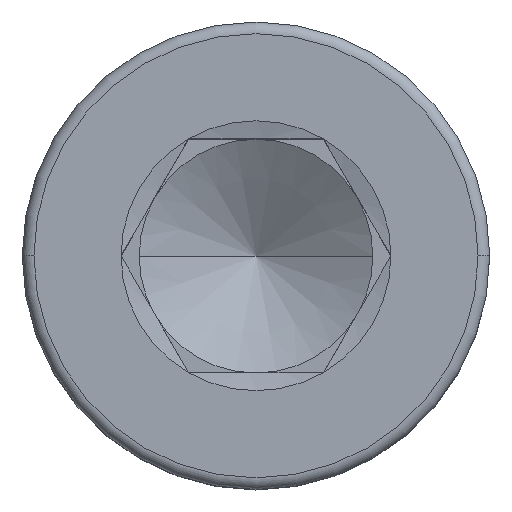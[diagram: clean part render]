
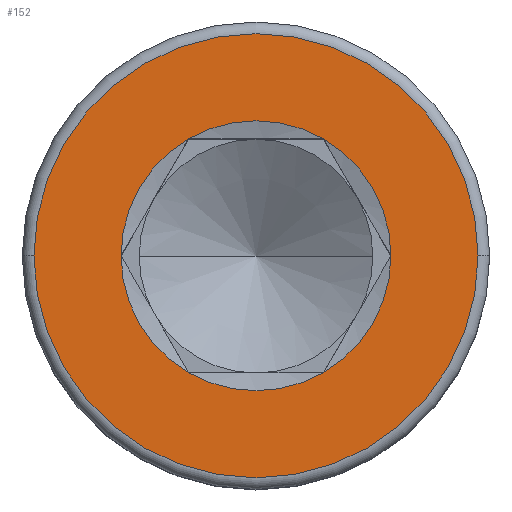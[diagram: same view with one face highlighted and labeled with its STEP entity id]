
A CAD part, top view. The second image highlights one B-rep face of the part: STEP entity #152.
In plain terms, the highlighted planar face has unit normal (0, 0, 1).
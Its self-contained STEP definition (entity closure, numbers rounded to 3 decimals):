
#12 = ORIENTED_EDGE ( 'NONE', *, *, #1401, .F. ) ;
#33 = DIRECTION ( 'NONE',  ( 1., 0., 0. ) ) ;
#37 = DIRECTION ( 'NONE',  ( 0., 0., 1. ) ) ;
#43 = DIRECTION ( 'NONE',  ( 0., 0., 1. ) ) ;
#60 = CARTESIAN_POINT ( 'NONE',  ( 0., 0., 6. ) ) ;
#150 = CARTESIAN_POINT ( 'NONE',  ( -1.443, 2.5, 6. ) ) ;
#152 = ADVANCED_FACE ( 'NONE', ( #1587, #928 ), #413, .T. ) ;
#170 = DIRECTION ( 'NONE',  ( 0., 0., 1. ) ) ;
#179 = EDGE_CURVE ( 'NONE', #652, #604, #1091, .T. ) ;
#249 = CIRCLE ( 'NONE', #428, 2.887 ) ;
#271 = AXIS2_PLACEMENT_3D ( 'NONE', #1624, #1366, #33 ) ;
#284 = CARTESIAN_POINT ( 'NONE',  ( 0., 0., 6. ) ) ;
#312 = CARTESIAN_POINT ( 'NONE',  ( 0., 0., 6. ) ) ;
#315 = DIRECTION ( 'NONE',  ( 0., 0., 1. ) ) ;
#323 = DIRECTION ( 'NONE',  ( 1., 0., 0. ) ) ;
#325 = ORIENTED_EDGE ( 'NONE', *, *, #991, .F. ) ;
#343 = VERTEX_POINT ( 'NONE', #1270 ) ;
#374 = CARTESIAN_POINT ( 'NONE',  ( 0., 0., 6. ) ) ;
#407 = DIRECTION ( 'NONE',  ( 1., 0., 0. ) ) ;
#413 = PLANE ( 'NONE',  #761 ) ;
#428 = AXIS2_PLACEMENT_3D ( 'NONE', #454, #614, #1627 ) ;
#454 = CARTESIAN_POINT ( 'NONE',  ( 0., 0., 6. ) ) ;
#498 = CARTESIAN_POINT ( 'NONE',  ( 4.75, 0., 6. ) ) ;
#500 = EDGE_CURVE ( 'NONE', #1165, #832, #764, .T. ) ;
#512 = AXIS2_PLACEMENT_3D ( 'NONE', #60, #170, #323 ) ;
#535 = VERTEX_POINT ( 'NONE', #150 ) ;
#543 = CIRCLE ( 'NONE', #1173, 4.75 ) ;
#604 = VERTEX_POINT ( 'NONE', #1359 ) ;
#611 = ORIENTED_EDGE ( 'NONE', *, *, #179, .F. ) ;
#614 = DIRECTION ( 'NONE',  ( 0., 0., 1. ) ) ;
#646 = EDGE_CURVE ( 'NONE', #1378, #343, #249, .T. ) ;
#647 = CARTESIAN_POINT ( 'NONE',  ( -4.75, 0., 6. ) ) ;
#652 = VERTEX_POINT ( 'NONE', #975 ) ;
#703 = ORIENTED_EDGE ( 'NONE', *, *, #905, .F. ) ;
#761 = AXIS2_PLACEMENT_3D ( 'NONE', #1451, #43, #1049 ) ;
#764 = CIRCLE ( 'NONE', #948, 4.75 ) ;
#794 = DIRECTION ( 'NONE',  ( 1., 0., 0. ) ) ;
#812 = CARTESIAN_POINT ( 'NONE',  ( 2.887, 0., 6. ) ) ;
#832 = VERTEX_POINT ( 'NONE', #647 ) ;
#858 = ORIENTED_EDGE ( 'NONE', *, *, #882, .F. ) ;
#882 = EDGE_CURVE ( 'NONE', #535, #1477, #1334, .T. ) ;
#901 = CIRCLE ( 'NONE', #1671, 2.887 ) ;
#905 = EDGE_CURVE ( 'NONE', #343, #535, #1556, .T. ) ;
#928 = FACE_BOUND ( 'NONE', #1273, .T. ) ;
#948 = AXIS2_PLACEMENT_3D ( 'NONE', #284, #1087, #407 ) ;
#975 = CARTESIAN_POINT ( 'NONE',  ( -1.443, -2.5, 6. ) ) ;
#991 = EDGE_CURVE ( 'NONE', #604, #1378, #1036, .T. ) ;
#1011 = CARTESIAN_POINT ( 'NONE',  ( 0., 0., 6. ) ) ;
#1036 = CIRCLE ( 'NONE', #271, 2.887 ) ;
#1049 = DIRECTION ( 'NONE',  ( 1., 0., 0. ) ) ;
#1077 = CARTESIAN_POINT ( 'NONE',  ( 0., 0., 6. ) ) ;
#1087 = DIRECTION ( 'NONE',  ( 0., 0., 1. ) ) ;
#1091 = CIRCLE ( 'NONE', #1280, 2.887 ) ;
#1139 = CARTESIAN_POINT ( 'NONE',  ( -2.887, 0., 6. ) ) ;
#1165 = VERTEX_POINT ( 'NONE', #498 ) ;
#1166 = DIRECTION ( 'NONE',  ( 0., 0., 1. ) ) ;
#1173 = AXIS2_PLACEMENT_3D ( 'NONE', #374, #1166, #1685 ) ;
#1251 = ORIENTED_EDGE ( 'NONE', *, *, #646, .F. ) ;
#1270 = CARTESIAN_POINT ( 'NONE',  ( 1.443, 2.5, 6. ) ) ;
#1273 = EDGE_LOOP ( 'NONE', ( #1251, #325, #611, #12, #858, #703 ) ) ;
#1280 = AXIS2_PLACEMENT_3D ( 'NONE', #1077, #1315, #794 ) ;
#1294 = EDGE_CURVE ( 'NONE', #832, #1165, #543, .T. ) ;
#1315 = DIRECTION ( 'NONE',  ( 0., 0., 1. ) ) ;
#1333 = DIRECTION ( 'NONE',  ( 1., 0., 0. ) ) ;
#1334 = CIRCLE ( 'NONE', #1668, 2.887 ) ;
#1359 = CARTESIAN_POINT ( 'NONE',  ( 1.443, -2.5, 6. ) ) ;
#1366 = DIRECTION ( 'NONE',  ( 0., 0., 1. ) ) ;
#1378 = VERTEX_POINT ( 'NONE', #812 ) ;
#1380 = ORIENTED_EDGE ( 'NONE', *, *, #1294, .T. ) ;
#1401 = EDGE_CURVE ( 'NONE', #1477, #652, #901, .T. ) ;
#1402 = ORIENTED_EDGE ( 'NONE', *, *, #500, .T. ) ;
#1451 = CARTESIAN_POINT ( 'NONE',  ( 0., 0., 6. ) ) ;
#1477 = VERTEX_POINT ( 'NONE', #1139 ) ;
#1556 = CIRCLE ( 'NONE', #512, 2.887 ) ;
#1587 = FACE_OUTER_BOUND ( 'NONE', #1691, .T. ) ;
#1624 = CARTESIAN_POINT ( 'NONE',  ( 0., 0., 6. ) ) ;
#1627 = DIRECTION ( 'NONE',  ( 1., 0., 0. ) ) ;
#1633 = DIRECTION ( 'NONE',  ( 1., 0., 0. ) ) ;
#1668 = AXIS2_PLACEMENT_3D ( 'NONE', #1011, #315, #1633 ) ;
#1671 = AXIS2_PLACEMENT_3D ( 'NONE', #312, #37, #1333 ) ;
#1685 = DIRECTION ( 'NONE',  ( 1., 0., 0. ) ) ;
#1691 = EDGE_LOOP ( 'NONE', ( #1402, #1380 ) ) ;
